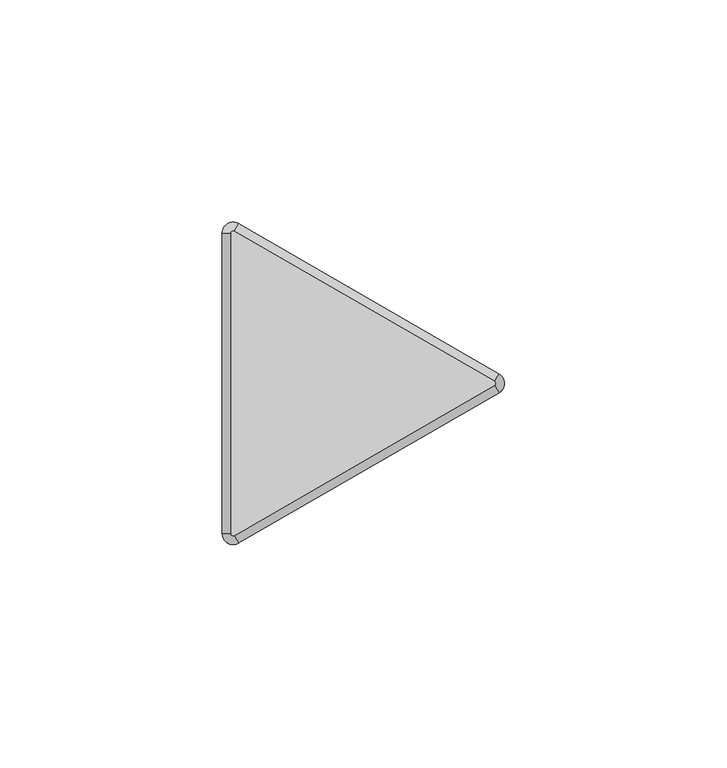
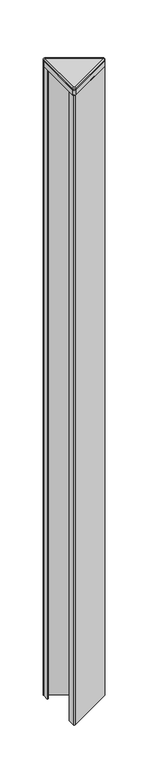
"""IFC4 building model written with IfcOpenShell, lengths in millimetres: furniture geometry, Steelcase - Answer Solution - Panel - 120deg Change-of-Height Trim - Thin : Y Corner - 36H for 84H App."""

from ifc_helpers import new_model, si_unit, point, frame, frame_2d, origin, place, context, project, spatial, polyline, circle_curve, ellipse_curve, trimmed, segment, composite_curve, outline, extrude, source, transform, mapped, element, save
from ifc_brep_helpers import plane_surface, cylinder_surface, revolved_surface, advanced_brep


def furniture_0c5b7990(model_context):
    return source(origin(), model_context, "Body", "SolidModel", [
        advanced_brep(
        [(-10.518645, -37.3335529, 2138.0628978), (-14.2052101, -35.2051135, 2138.0628978), (-14.2052101, -35.2051135, 2137.1164663), (-10.518645, -37.3335529, 2137.1164663), (-11.46175, -35.7000471, 2139.95), (-12.319, -35.2051135, 2139.95), (-11.46175, -35.7000471, 2137.1164663), (-12.319, -35.2051135, 2137.1164663), (48.0429908, -3.5229767, 2137.1164663), (48.0429908, -3.5229767, 2138.0628978), (47.0998858, -1.8894709, 2139.95), (47.0998858, -1.8894709, 2137.1164663), (48.0429908, 0.733902, 2138.0628978), (48.0429908, 0.733902, 2137.1164663), (47.0998858, -0.8996038, 2139.95), (47.0998858, -0.8996038, 2137.1164663), (-10.518645, 34.5444782, 2137.1164663), (-14.2052101, 32.4160388, 2137.1164663), (-11.46175, 32.9109723, 2137.1164663), (-12.319, 32.4160388, 2137.1164663), (-10.518645, 34.5444782, 2138.0628978), (-11.46175, 32.9109723, 2139.95), (-14.2052101, 32.4160388, 2138.0628978), (-12.319, 32.4160388, 2139.95)],
        [
            (0, 1, circle_curve(frame((-11.7475, -35.2051135, 2138.0628978), z_axis=(0.0, 0.0, -1.0), x_axis=(-1.0, 0.0, 0.0)), 2.4577101)),
            (1, 2),
            (2, 3, circle_curve(frame((-11.7475, -35.2051135, 2137.1164663), z_axis=(0.0, 0.0, 1.0), x_axis=(-1.0, 0.0, 0.0)), 2.4577101)),
            (3, 0),
            (4, 5, circle_curve(frame((-11.7475, -35.2051135, 2139.95), z_axis=(0.0, 0.0, -1.0), x_axis=(-1.0, 0.0, 0.0)), 0.5715)),
            (5, 1, circle_curve(frame((-12.3181076, -35.2051135, 2138.0628978), z_axis=(0.0, -1.0, 0.0), x_axis=(1.0, 0.0, 0.0)), 1.8871024)),
            (0, 4, circle_curve(frame((-11.4621962, -35.6992743, 2138.0628978), z_axis=(-0.8660254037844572, -0.49999999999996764, 0.0), x_axis=(-0.49999999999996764, 0.8660254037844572, 0.0)), 1.8871024)),
            (6, 7, circle_curve(frame((-11.7475, -35.2051135, 2137.1164663), z_axis=(0.0, 0.0, -1.0), x_axis=(-1.0, 0.0, 0.0)), 0.5715)),
            (7, 5),
            (4, 6),
            (3, 8),
            (8, 9),
            (9, 0),
            (9, 10, circle_curve(frame((47.0994396, -1.8886981, 2138.0628978), z_axis=(-0.8660254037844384, -0.5000000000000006, 0.0), x_axis=(-0.5000000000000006, 0.8660254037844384, 0.0)), 1.8871024)),
            (10, 4),
            (10, 11),
            (11, 6),
            (12, 9, circle_curve(frame((46.8141358, -1.3945374, 2138.0628978), z_axis=(0.0, 0.0, -1.0), x_axis=(0.4999999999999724, -0.8660254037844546, 0.0)), 2.4577101)),
            (8, 13, circle_curve(frame((46.8141358, -1.3945374, 2137.1164663), z_axis=(0.0, 0.0, 1.0), x_axis=(0.4999999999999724, -0.8660254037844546, 0.0)), 2.4577101)),
            (13, 12),
            (14, 10, circle_curve(frame((46.8141358, -1.3945374, 2139.95), z_axis=(0.0, 0.0, -1.0), x_axis=(0.4999999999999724, -0.8660254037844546, 0.0)), 0.5715)),
            (12, 14, circle_curve(frame((47.0994396, -0.9003766, 2138.0628978), z_axis=(0.8660254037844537, -0.49999999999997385, 0.0), x_axis=(-0.49999999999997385, -0.8660254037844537, 0.0)), 1.8871024)),
            (15, 11, circle_curve(frame((46.8141358, -1.3945374, 2137.1164663), z_axis=(0.0, 0.0, -1.0), x_axis=(0.4999999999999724, -0.8660254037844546, 0.0)), 0.5715)),
            (14, 15),
            (16, 13),
            (2, 17),
            (17, 16, circle_curve(frame((-11.7475, 32.4160388, 2137.1164663), z_axis=(0.0, 0.0, -1.0), x_axis=(0.500000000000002, 0.8660254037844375, 0.0)), 2.4577101)),
            (15, 18),
            (18, 19, circle_curve(frame((-11.7475, 32.4160388, 2137.1164663), z_axis=(0.0, 0.0, 1.0), x_axis=(0.500000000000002, 0.8660254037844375, 0.0)), 0.5715)),
            (19, 7),
            (16, 20),
            (20, 12),
            (20, 21, circle_curve(frame((-11.4621962, 32.9101995, 2138.0628978), z_axis=(0.8660254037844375, -0.5000000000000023, 0.0), x_axis=(-0.5000000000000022, -0.8660254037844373, 0.0)), 1.8871024)),
            (21, 14),
            (21, 18),
            (22, 20, circle_curve(frame((-11.7475, 32.4160388, 2138.0628978), z_axis=(0.0, 0.0, -1.0), x_axis=(0.500000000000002, 0.8660254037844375, 0.0)), 2.4577101)),
            (17, 22),
            (23, 21, circle_curve(frame((-11.7475, 32.4160388, 2139.95), z_axis=(0.0, 0.0, -1.0), x_axis=(0.500000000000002, 0.8660254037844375, 0.0)), 0.5715)),
            (22, 23, circle_curve(frame((-12.3181076, 32.4160388, 2138.0628978), z_axis=(0.0, 1.0, 0.0), x_axis=(1.0, 0.0, 0.0)), 1.8871024)),
            (23, 19),
            (1, 22),
            (5, 23),
        ],
        [
            cylinder_surface(frame((-11.7475, -35.2051135, 0.0), z_axis=(0.0, 0.0, 1.0), x_axis=(-1.0, 0.0, 0.0)), 2.4577101),
            revolved_surface(trimmed(ellipse_curve(frame((-12.3181076, -35.2051135, 2138.0628978), z_axis=(0.0, 1.0, 0.0), x_axis=(1.0, 0.0, 0.0)), 1.8871024, 1.8871024), [point((-14.2052101, -35.2051135, 2138.0628978))], [point((-12.319, -35.2051135, 2139.95))], True, "CARTESIAN"), (-11.7475, -35.2051135, 0.0), (0.0, 0.0, 1.0)),
            revolved_surface(polyline([(-12.319, -35.2051135, 2139.95), (-12.319, -35.2051135, 2137.1164663)]), (-11.7475, -35.2051135, 0.0), (0.0, 0.0, 1.0)),
            plane_surface(frame((-10.518645, -37.3335529, 2137.1164663), z_axis=(0.49999999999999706, -0.8660254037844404, 0.0), x_axis=(0.8660254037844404, 0.49999999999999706, 0.0))),
            cylinder_surface(frame((-11.4621962, -35.6992743, 2138.0628978), z_axis=(-0.8660254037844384, -0.5000000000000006, 0.0), x_axis=(-0.5000000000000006, 0.8660254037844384, 0.0)), 1.8871024),
            plane_surface(frame((-11.46175, -35.7000471, 2139.95), z_axis=(-0.500000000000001, 0.8660254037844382, 0.0), x_axis=(0.8660254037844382, 0.500000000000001, 0.0))),
            cylinder_surface(frame((46.8141358, -1.3945374, 0.0), z_axis=(0.0, 0.0, 1.0), x_axis=(0.4999999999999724, -0.8660254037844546, 0.0)), 2.4577101),
            revolved_surface(trimmed(ellipse_curve(frame((47.0994396, -1.8886981, 2138.0628978), z_axis=(-0.8660254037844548, -0.499999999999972, 0.0), x_axis=(-0.499999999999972, 0.8660254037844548, 0.0)), 1.8871024, 1.8871024), [point((48.0429908, -3.5229767, 2138.0628978))], [point((47.0998858, -1.8894709, 2139.95))], True, "CARTESIAN"), (46.8141358, -1.3945374, 0.0), (0.0, 0.0, 1.0)),
            revolved_surface(polyline([(47.09988579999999, -1.8894709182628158, 2139.95), (47.09988579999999, -1.8894709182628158, 2137.1164663)]), (46.8141358, -1.3945374, 0.0), (0.0, 0.0, 1.0)),
            plane_surface(frame((47.0998858, -0.8996038, 2137.1164663), z_axis=(0.0, 0.0, -1.0), x_axis=(-0.8660254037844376, 0.5000000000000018, 0.0))),
            plane_surface(frame((48.0429908, 0.733902, 2137.1164663), z_axis=(0.49999999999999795, 0.8660254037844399, 0.0), x_axis=(-0.8660254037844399, 0.49999999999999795, 0.0))),
            cylinder_surface(frame((47.0994396, -0.9003766, 2138.0628978), z_axis=(0.8660254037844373, -0.5000000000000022, 0.0), x_axis=(-0.5000000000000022, -0.8660254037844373, 0.0)), 1.8871024),
            plane_surface(frame((47.0998858, -0.8996038, 2139.95), z_axis=(-0.5000000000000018, -0.8660254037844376, 0.0), x_axis=(-0.8660254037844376, 0.5000000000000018, 0.0))),
            cylinder_surface(frame((-11.7475, 32.4160388, 0.0), z_axis=(0.0, 0.0, 1.0), x_axis=(0.500000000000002, 0.8660254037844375, 0.0)), 2.4577101),
            revolved_surface(trimmed(ellipse_curve(frame((-11.4621962, 32.9101995, 2138.0628978), z_axis=(0.866025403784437, -0.5000000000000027, 0.0), x_axis=(-0.5000000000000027, -0.866025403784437, 0.0)), 1.8871024, 1.8871024), [point((-10.518645, 34.5444782, 2138.0628978))], [point((-11.46175, 32.9109723, 2139.95))], True, "CARTESIAN"), (-11.7475, 32.4160388, 0.0), (0.0, 0.0, 1.0)),
            revolved_surface(polyline([(-11.461749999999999, 32.91097231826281, 2139.95), (-11.461749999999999, 32.91097231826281, 2137.1164663)]), (-11.7475, 32.4160388, 0.0), (0.0, 0.0, 1.0)),
            plane_surface(frame((-14.2052101, 32.4160388, 2137.1164663), z_axis=(-1.0, 0.0, 0.0), x_axis=(0.0, -1.0, 0.0))),
            cylinder_surface(frame((-12.3181076, 32.4160388, 2138.0628978), z_axis=(0.0, 1.0, 0.0), x_axis=(1.0, 0.0, 0.0)), 1.8871024),
            plane_surface(frame((-12.319, 32.4160388, 2139.95), z_axis=(1.0, 0.0, 0.0), x_axis=(0.0, -1.0, 0.0))),
        ],
        [
            (0, [[1, 2, 3, 4]]),
            (1, [[5, 6, -1, 7]]),
            (2, [[8, 9, -5, 10]]),
            (3, [[-4, 11, 12, 13]]),
            (4, [[-7, -13, 14, 15]]),
            (5, [[-10, -15, 16, 17]]),
            (6, [[18, -12, 19, 20]]),
            (7, [[21, -14, -18, 22]]),
            (8, [[23, -16, -21, 24]]),
            (9, [[25, -19, -11, -3, 26, 27], [-8, -17, -23, 28, 29, 30]]),
            (10, [[-20, -25, 31, 32]]),
            (11, [[-22, -32, 33, 34]]),
            (12, [[-24, -34, 35, -28]]),
            (13, [[36, -31, -27, 37]]),
            (14, [[38, -33, -36, 39]]),
            (15, [[-29, -35, -38, 40]]),
            (16, [[-37, -26, -2, 41]]),
            (17, [[-39, -41, -6, 42]]),
            (18, [[-40, -42, -9, -30]]),
        ],
    ),
        extrude(outline(composite_curve([segment(trimmed(circle_curve(frame_2d((47.9522001, -1.3945374)), 1.2978651), [point((48.6011327, -0.2705532))], [point((48.6011327, -2.5185215))], False, "CARTESIAN"), True, "CONTINUOUS"), segment(polyline([(48.6011327, -2.5185215), (-11.6879343, -37.3264306)]), True, "CONTINUOUS"), segment(trimmed(circle_curve(frame_2d((-12.3300896, -36.2141852)), 1.2843104), [point((-11.6879343, -37.3264306))], [point((-13.6144, -36.2141852))], False, "CARTESIAN"), True, "CONTINUOUS"), segment(polyline([(-13.6144, -36.2141852), (-13.6144, -27.3303775), (-12.7, -27.3303775), (-12.7, -36.8548888), (48.7191304, -1.3945374), (-12.7, 34.0658141), (-12.7, 24.5413027), (-13.6144, 24.5413027), (-13.6144, 33.4106259)]), True, "CONTINUOUS"), segment(trimmed(circle_curve(frame_2d((-12.3217269, 33.4106259)), 1.2926731), [point((-13.6144, 33.4106259))], [point((-11.6753904, 34.5301136))], False, "CARTESIAN"), True, "CONTINUOUS"), segment(polyline([(-11.6753904, 34.5301136), (48.6011327, -0.2705532)]), True, "CONTINUOUS")], self_intersect=False)), frame((0.0, 0.0, 1225.55), z_axis=(0.0, 0.0, 1.0), x_axis=(1.0, 0.0, 0.0)), (0.0, 0.0, 1.0), 904.24),
        extrude(outline(composite_curve([segment(trimmed(circle_curve(frame_2d((46.8261011, -1.3945374)), 0.5655173), [point((47.1088598, -0.904785))], [point((47.1088598, -1.8842897))], False, "CARTESIAN"), True, "CONTINUOUS"), segment(polyline([(47.1088598, -1.8842897), (-11.4505119, -35.6935587)]), True, "CONTINUOUS"), segment(trimmed(circle_curve(frame_2d((-11.7400079, -35.1921369)), 0.5789921), [point((-11.4505119, -35.6935587))], [point((-12.319, -35.1921369))], False, "CARTESIAN"), True, "CONTINUOUS"), segment(polyline([(-12.319, -35.1921369), (-12.319, 32.3985888)]), True, "CONTINUOUS"), segment(trimmed(circle_curve(frame_2d((-11.7374252, 32.3985888)), 0.5815748), [point((-12.319, 32.3985888))], [point((-11.4466378, 32.9022473))], False, "CARTESIAN"), True, "CONTINUOUS"), segment(polyline([(-11.4466378, 32.9022473), (47.1088598, -0.904785)]), True, "CONTINUOUS")], self_intersect=False)), frame((0.0, 0.0, 2137.1164663), z_axis=(0.0, 0.0, 1.0), x_axis=(1.0, 0.0, 0.0)), (0.0, 0.0, 1.0), 2.8335337),
        extrude(outline(composite_curve([segment(trimmed(circle_curve(frame_2d((46.8140443, -1.3945374)), 2.4577558), [point((48.0429222, 0.7339416))], [point((48.0429222, -3.5230163))], False, "CARTESIAN"), True, "CONTINUOUS"), segment(polyline([(48.0429222, -3.5230163), (-10.518058, -37.333214)]), True, "CONTINUOUS"), segment(trimmed(circle_curve(frame_2d((-11.7471087, -35.2044357)), 2.4581014), [point((-10.518058, -37.333214))], [point((-14.2052101, -35.2044357))], False, "CARTESIAN"), True, "CONTINUOUS"), segment(polyline([(-14.2052101, -35.2044357), (-14.2052101, 32.4160388)]), True, "CONTINUOUS"), segment(trimmed(circle_curve(frame_2d((-11.7475, 32.4160388)), 2.4577101), [point((-14.2052101, 32.4160388))], [point((-10.518645, 34.5444782))], False, "CARTESIAN"), True, "CONTINUOUS"), segment(polyline([(-10.518645, 34.5444782), (48.0429222, 0.7339416)]), True, "CONTINUOUS")], self_intersect=False)), frame((0.0, 0.0, 2129.79), z_axis=(0.0, 0.0, 1.0), x_axis=(1.0, 0.0, 0.0)), (0.0, 0.0, 1.0), 7.3264663),
    ])


if __name__ == "__main__":
    model = new_model("IFC4")
    model_context = context("Model", 3, world=origin())
    ifc_project = project(units=[si_unit("LENGTHUNIT", "METRE", prefix="MILLI")], contexts=[model_context])
    site = spatial("IfcSite", under=ifc_project)
    building = spatial("IfcBuilding", under=site)
    placement = place(None, origin())
    furniture_shape = furniture_0c5b7990(model_context)
    element("IfcFurniture", 1, ObjectType="Steelcase - Answer Solution - Panel - 120deg Change-of-Height Trim - Thin : Y Corner - 36H for 84H App", at=placement, inside=building, context=model_context, shape_type="MappedRepresentation", body=[
        mapped(furniture_shape, transform((0.0, 0.0, 0.0), x_axis=(1.0, 0.0, 0.0), y_axis=(0.0, 1.0, 0.0), z_axis=(0.0, 0.0, 1.0))),
    ])
    save(model, "model.ifc")
